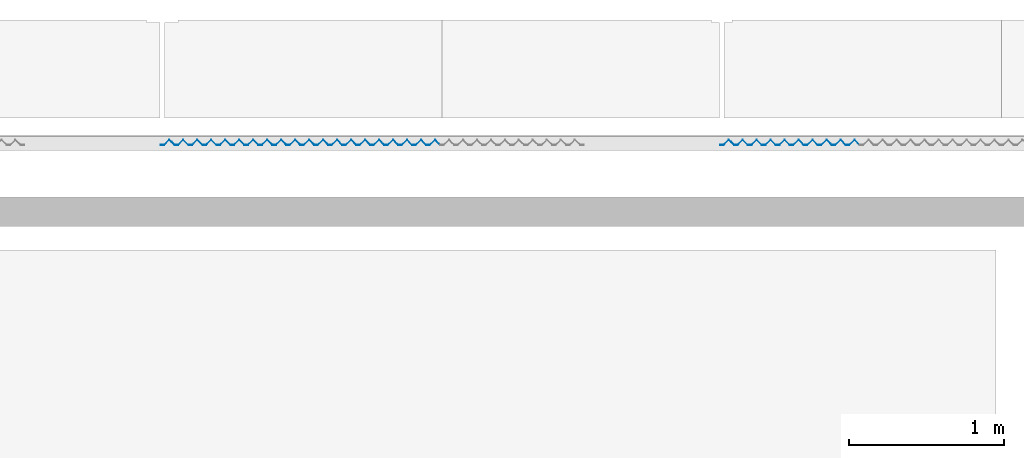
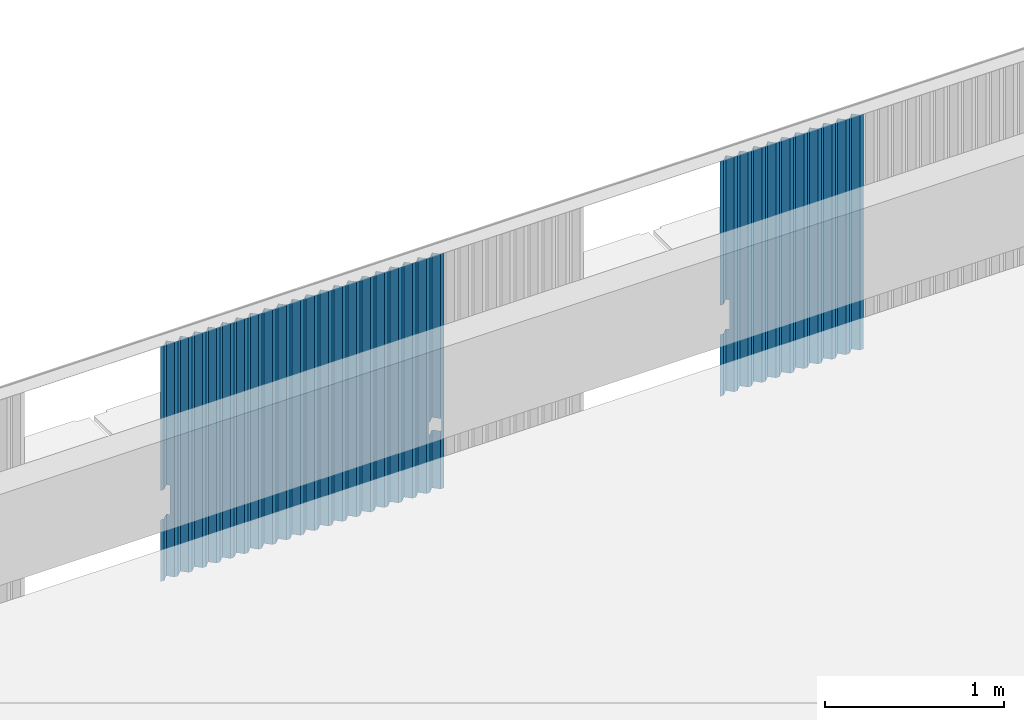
# One storey, part 32 of 37: 3 walls.
"""IFC4X3_ADD2 building model written with IfcOpenShell, lengths in millimetres."""

from ifc_helpers import new_model, si_unit, direction, frame, origin_with_axes, place, context, subcontext, project, spatial, polygons, element, save


model = new_model("IFC4X3_ADD2")

# Units and contexts
model_context = context("Model", 3, precision=1e-05, world=origin_with_axes(), true_north=direction((0.0, 1.0)))
body_context = subcontext(model_context, "Body", "Model", "MODEL_VIEW")
ifc_project = project(units=[si_unit("LENGTHUNIT", "METRE", prefix="MILLI"), si_unit("AREAUNIT", "SQUARE_METRE"), si_unit("VOLUMEUNIT", "CUBIC_METRE"), si_unit("PLANEANGLEUNIT", "RADIAN"), si_unit("TIMEUNIT", "SECOND"), si_unit("MASSUNIT", "GRAM")], contexts=[model_context])

# Site, building, storey
site_placement = place(None, origin_with_axes())
site = spatial("IfcSite", under=ifc_project, at=site_placement, Name="Site", CompositionType="ELEMENT")
building_placement = place(site_placement, origin_with_axes())
building = spatial("IfcBuilding", under=site, at=building_placement, Name="IFC Building Story")
storey_placement = place(building_placement, frame((0.0, 0.0, 14400.0), z_axis=(0.0, 0.0, 1.0), x_axis=(1.0, 0.0, 0.0)))
storey = spatial("IfcBuildingStorey", under=building, at=storey_placement, Name="040", Elevation=14400.0)

# Walls
wall_1_placement = place(storey_placement, frame((0.0, 0.0, -14400.0), z_axis=(0.0, 0.0, 1.0), x_axis=(1.0, 0.0, 0.0)))
element("IfcWall", 1, at=wall_1_placement, inside=storey, Name="BB_07.10_Gevelbekleding_PuntProfiel, 900 mm, console rechts_GMO:900 x 1600 mm", ObjectType="BB_07.10_Gevelbekleding_PuntProfiel, 900 mm, console rechts_GMO:900 x 1600 mm", PredefinedType="NOTDEFINED", context=body_context, shape_type="Tessellation", body=[
    polygons([(-12504.99999999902, 45734.99999999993, 14060.0), (-12504.99999999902, 45733.58578643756, 14060.0), (-12519.99999999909, 45748.58578643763, 14060.0), (-12553.58578643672, 45715.0, 14060.0), (-12576.4142135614, 45715.00000000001, 14060.0), (-12575.99999999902, 45716.0, 14060.0), (-12553.9999999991, 45715.99999999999, 14060.0), (-12519.99999999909, 45750.0, 14060.0), (-12504.99999999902, 45734.99999999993, 13860.0), (-12504.99999999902, 45733.58578643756, 13860.0), (-12519.99999999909, 45750.00000000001, 13860.0), (-12553.9999999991, 45716.0, 13860.0), (-12575.99999999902, 45716.0, 13860.0), (-12576.4142135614, 45715.0, 13860.0), (-12553.58578643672, 45715.0, 13860.0), (-12519.99999999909, 45748.58578643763, 13860.0), (-11743.99999999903, 45716.0, 15040.0), (-11765.99999999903, 45716.0, 15040.0), (-11799.99999999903, 45750.0, 15040.0), (-11833.99999999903, 45716.0, 15040.0), (-11855.99999999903, 45716.0, 15040.0), (-11889.99999999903, 45750.0, 15040.0), (-11923.99999999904, 45716.0, 15040.0), (-11945.99999999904, 45716.0, 15040.0), (-11979.99999999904, 45750.00000000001, 15040.0), (-12013.99999999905, 45716.0, 15040.0), (-12035.99999999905, 45716.0, 15040.0), (-12069.99999999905, 45750.00000000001, 15040.0), (-12103.99999999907, 45716.0, 15040.0), (-12125.99999999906, 45716.0, 15040.0), (-12159.99999999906, 45750.00000000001, 15040.0), (-12193.99999999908, 45716.0, 15040.0), (-12215.99999999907, 45716.0, 15040.0), (-12249.99999999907, 45750.00000000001, 15040.0), (-12283.99999999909, 45716.0, 15040.0), (-12305.99999999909, 45716.0, 15040.0), (-12339.99999999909, 45750.00000000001, 15040.0), (-12373.9999999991, 45716.0, 15040.0), (-12395.99999999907, 45716.0, 15040.0), (-12429.99999999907, 45750.00000000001, 15040.0), (-12463.99999999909, 45716.0, 15040.0), (-12485.99999999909, 45716.0, 15040.0), (-12519.99999999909, 45750.00000000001, 15040.0), (-12553.9999999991, 45716.0, 15040.0), (-12575.99999999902, 45716.0, 15040.0), (-12576.4142135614, 45715.00000000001, 15040.0), (-12553.58578643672, 45715.00000000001, 15040.0), (-12519.99999999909, 45748.58578643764, 15040.0), (-12486.41421356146, 45715.00000000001, 15040.0), (-12463.5857864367, 45715.00000000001, 15040.0), (-12429.99999999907, 45748.58578643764, 15040.0), (-12396.41421356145, 45715.00000000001, 15040.0), (-12373.58578643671, 45715.00000000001, 15040.0), (-12339.99999999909, 45748.58578643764, 15040.0), (-12306.41421356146, 45715.00000000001, 15040.0), (-12283.5857864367, 45715.00000000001, 15040.0), (-12249.99999999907, 45748.58578643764, 15040.0), (-12216.41421356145, 45715.00000000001, 15040.0), (-12193.58578643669, 45715.00000000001, 15040.0), (-12159.99999999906, 45748.58578643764, 15040.0), (-12126.41421356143, 45715.00000000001, 15040.0), (-12103.58578643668, 45715.00000000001, 15040.0), (-12069.99999999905, 45748.58578643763, 15040.0), (-12036.41421356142, 45715.00000000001, 15040.0), (-12013.58578643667, 45715.00000000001, 15040.0), (-11979.99999999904, 45748.58578643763, 15040.0), (-11946.41421356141, 45715.00000000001, 15040.0), (-11923.58578643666, 45715.00000000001, 15040.0), (-11889.99999999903, 45748.58578643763, 15040.0), (-11856.41421356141, 45715.0, 15040.0), (-11833.58578643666, 45715.0, 15040.0), (-11799.99999999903, 45748.58578643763, 15040.0), (-11766.4142135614, 45715.0, 15040.0), (-11743.58578643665, 45715.0, 15040.0), (-11709.99999999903, 45748.58578643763, 15040.0), (-11676.4142135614, 45715.0, 15040.0), (-11653.58578643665, 45715.0, 15040.0), (-11653.99999999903, 45716.0, 15040.0), (-11675.99999999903, 45716.0, 15040.0), (-11709.99999999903, 45750.0, 15040.0), (-11743.99999999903, 45716.0, 13440.0), (-11709.99999999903, 45750.0, 13440.0), (-11675.99999999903, 45716.0, 13440.0), (-11653.99999999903, 45716.0, 13440.0), (-11653.58578643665, 45715.0, 13440.0), (-11676.4142135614, 45715.0, 13440.0), (-11709.99999999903, 45748.58578643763, 13440.0), (-11743.58578643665, 45715.0, 13440.0), (-11766.4142135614, 45715.0, 13440.0), (-11799.99999999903, 45748.58578643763, 13440.0), (-11833.58578643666, 45715.0, 13440.0), (-11856.41421356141, 45715.0, 13440.0), (-11889.99999999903, 45748.58578643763, 13440.0), (-11923.58578643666, 45715.00000000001, 13440.0), (-11946.41421356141, 45715.00000000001, 13440.0), (-11979.99999999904, 45748.58578643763, 13440.0), (-12013.58578643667, 45715.00000000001, 13440.0), (-12036.41421356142, 45715.00000000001, 13440.0), (-12069.99999999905, 45748.58578643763, 13440.0), (-12103.58578643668, 45715.00000000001, 13440.0), (-12126.41421356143, 45715.00000000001, 13440.0), (-12159.99999999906, 45748.58578643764, 13440.0), (-12193.58578643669, 45715.00000000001, 13440.0), (-12216.41421356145, 45715.00000000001, 13440.0), (-12249.99999999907, 45748.58578643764, 13440.0), (-12283.5857864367, 45715.00000000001, 13440.0), (-12306.41421356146, 45715.00000000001, 13440.0), (-12339.99999999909, 45748.58578643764, 13440.0), (-12373.58578643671, 45715.00000000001, 13440.0), (-12396.41421356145, 45715.00000000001, 13440.0), (-12429.99999999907, 45748.58578643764, 13440.0), (-12463.5857864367, 45715.00000000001, 13440.0), (-12486.41421356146, 45715.00000000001, 13440.0), (-12519.99999999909, 45748.58578643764, 13440.0), (-12553.58578643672, 45715.00000000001, 13440.0), (-12576.4142135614, 45715.00000000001, 13440.0), (-12575.99999999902, 45716.0, 13440.0), (-12553.9999999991, 45716.0, 13440.0), (-12519.99999999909, 45750.00000000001, 13440.0), (-12485.99999999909, 45716.0, 13440.0), (-12463.99999999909, 45716.0, 13440.0), (-12429.99999999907, 45750.00000000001, 13440.0), (-12395.99999999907, 45716.0, 13440.0), (-12373.9999999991, 45716.0, 13440.0), (-12339.99999999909, 45750.00000000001, 13440.0), (-12305.99999999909, 45716.0, 13440.0), (-12283.99999999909, 45716.0, 13440.0), (-12249.99999999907, 45750.00000000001, 13440.0), (-12215.99999999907, 45716.0, 13440.0), (-12193.99999999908, 45716.0, 13440.0), (-12159.99999999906, 45750.00000000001, 13440.0), (-12125.99999999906, 45716.0, 13440.0), (-12103.99999999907, 45716.0, 13440.0), (-12069.99999999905, 45750.00000000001, 13440.0), (-12035.99999999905, 45716.0, 13440.0), (-12013.99999999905, 45716.0, 13440.0), (-11979.99999999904, 45750.00000000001, 13440.0), (-11945.99999999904, 45716.0, 13440.0), (-11923.99999999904, 45716.0, 13440.0), (-11889.99999999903, 45750.0, 13440.0), (-11855.99999999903, 45716.0, 13440.0), (-11833.99999999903, 45716.0, 13440.0), (-11799.99999999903, 45750.0, 13440.0), (-11765.99999999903, 45716.0, 13440.0)], [[[7, 8, 3]], [[7, 3, 4]], [[4, 5, 6]], [[4, 6, 7]], [[8, 1, 2]], [[8, 2, 3]], [[2, 1, 9, 10]], [[12, 13, 14]], [[12, 14, 15]], [[16, 10, 9]], [[16, 9, 11]], [[11, 12, 15]], [[11, 15, 16]], [[44, 45, 46]], [[44, 46, 47]], [[48, 49, 42]], [[48, 42, 43]], [[43, 44, 47]], [[43, 47, 48]], [[49, 50, 41]], [[49, 41, 42]], [[51, 52, 39]], [[51, 39, 40]], [[40, 41, 50]], [[40, 50, 51]], [[52, 53, 38]], [[52, 38, 39]], [[54, 55, 36]], [[54, 36, 37]], [[37, 38, 53]], [[37, 53, 54]], [[55, 56, 35]], [[55, 35, 36]], [[57, 58, 33]], [[57, 33, 34]], [[34, 35, 56]], [[34, 56, 57]], [[58, 59, 32]], [[58, 32, 33]], [[60, 61, 30]], [[60, 30, 31]], [[31, 32, 59]], [[31, 59, 60]], [[61, 62, 29]], [[61, 29, 30]], [[63, 64, 27]], [[63, 27, 28]], [[28, 29, 62]], [[28, 62, 63]], [[64, 65, 26]], [[64, 26, 27]], [[66, 67, 24]], [[66, 24, 25]], [[25, 26, 65]], [[25, 65, 66]], [[67, 68, 23]], [[67, 23, 24]], [[69, 70, 21]], [[69, 21, 22]], [[22, 23, 68]], [[22, 68, 69]], [[70, 71, 20]], [[70, 20, 21]], [[72, 73, 18]], [[72, 18, 19]], [[19, 20, 71]], [[19, 71, 72]], [[73, 74, 17]], [[73, 17, 18]], [[79, 80, 75]], [[79, 75, 76]], [[76, 77, 78]], [[76, 78, 79]], [[80, 17, 74]], [[80, 74, 75]], [[83, 84, 85]], [[83, 85, 86]], [[87, 88, 81]], [[87, 81, 82]], [[82, 83, 86]], [[82, 86, 87]], [[118, 119, 114]], [[118, 114, 115]], [[115, 116, 117]], [[115, 117, 118]], [[121, 122, 111]], [[121, 111, 112]], [[112, 113, 120]], [[112, 120, 121]], [[113, 114, 119]], [[113, 119, 120]], [[124, 125, 108]], [[124, 108, 109]], [[109, 110, 123]], [[109, 123, 124]], [[110, 111, 122]], [[110, 122, 123]], [[127, 128, 105]], [[127, 105, 106]], [[106, 107, 126]], [[106, 126, 127]], [[107, 108, 125]], [[107, 125, 126]], [[130, 131, 102]], [[130, 102, 103]], [[103, 104, 129]], [[103, 129, 130]], [[104, 105, 128]], [[104, 128, 129]], [[133, 134, 99]], [[133, 99, 100]], [[100, 101, 132]], [[100, 132, 133]], [[101, 102, 131]], [[101, 131, 132]], [[136, 137, 96]], [[136, 96, 97]], [[97, 98, 135]], [[97, 135, 136]], [[98, 99, 134]], [[98, 134, 135]], [[139, 140, 93]], [[139, 93, 94]], [[94, 95, 138]], [[94, 138, 139]], [[95, 96, 137]], [[95, 137, 138]], [[142, 143, 90]], [[142, 90, 91]], [[91, 92, 141]], [[91, 141, 142]], [[92, 93, 140]], [[92, 140, 141]], [[144, 81, 88]], [[144, 88, 89]], [[89, 90, 143]], [[89, 143, 144]], [[18, 17, 81, 144]], [[19, 18, 144, 143]], [[20, 19, 143, 142]], [[21, 20, 142, 141]], [[22, 21, 141, 140]], [[23, 22, 140, 139]], [[24, 23, 139, 138]], [[25, 24, 138, 137]], [[26, 25, 137, 136]], [[27, 26, 136, 135]], [[28, 27, 135, 134]], [[29, 28, 134, 133]], [[30, 29, 133, 132]], [[31, 30, 132, 131]], [[32, 31, 131, 130]], [[33, 32, 130, 129]], [[34, 33, 129, 128]], [[35, 34, 128, 127]], [[36, 35, 127, 126]], [[37, 36, 126, 125]], [[38, 37, 125, 124]], [[54, 53, 109, 108]], [[55, 54, 108, 107]], [[56, 55, 107, 106]], [[57, 56, 106, 105]], [[58, 57, 105, 104]], [[59, 58, 104, 103]], [[60, 59, 103, 102]], [[61, 60, 102, 101]], [[62, 61, 101, 100]], [[63, 62, 100, 99]], [[64, 63, 99, 98]], [[65, 64, 98, 97]], [[66, 65, 97, 96]], [[67, 66, 96, 95]], [[68, 67, 95, 94]], [[69, 68, 94, 93]], [[70, 69, 93, 92]], [[71, 70, 92, 91]], [[72, 71, 91, 90]], [[73, 72, 90, 89]], [[74, 73, 89, 88]], [[80, 79, 83, 82]], [[17, 80, 82, 81]], [[39, 38, 124, 123]], [[40, 39, 123, 122]], [[41, 40, 122, 121]], [[42, 41, 121, 120]], [[1, 8, 43]], [[1, 43, 42]], [[42, 9, 1]], [[42, 120, 9]], [[120, 119, 11]], [[120, 11, 9]], [[44, 43, 8, 7]], [[45, 44, 7, 6]], [[47, 46, 5, 4]], [[48, 47, 4, 3]], [[10, 16, 114]], [[10, 114, 113]], [[113, 2, 10]], [[2, 113, 49]], [[49, 48, 2]], [[48, 3, 2]], [[50, 49, 113, 112]], [[51, 50, 112, 111]], [[52, 51, 111, 110]], [[53, 52, 110, 109]], [[75, 74, 88, 87]], [[76, 75, 87, 86]], [[46, 45, 6, 5]], [[77, 76, 86, 85]], [[78, 77, 85, 84]], [[79, 78, 84, 83]], [[117, 116, 14, 13]], [[115, 114, 16, 15]], [[116, 115, 15, 14]], [[118, 117, 13, 12]], [[119, 118, 12, 11]]]),
])
wall_2_placement = place(storey_placement, frame((0.0, 0.0, -14400.0), z_axis=(0.0, 0.0, 1.0), x_axis=(1.0, 0.0, 0.0)))
element("IfcWall", 2, at=wall_2_placement, inside=storey, Name="BB_07.10_Gevelbekleding_PuntProfiel, 900 mm, vol_GMO:900 x 1600 mm", ObjectType="BB_07.10_Gevelbekleding_PuntProfiel, 900 mm, vol_GMO:900 x 1600 mm", PredefinedType="NOTDEFINED", context=body_context, shape_type="Tessellation", body=[
    polygons([(-10843.99999999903, 45716.0, 15040.0), (-10865.99999999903, 45716.0, 15040.0), (-10899.99999999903, 45750.0, 15040.0), (-10933.99999999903, 45716.0, 15040.0), (-10955.99999999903, 45716.0, 15040.0), (-10989.99999999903, 45750.0, 15040.0), (-11023.99999999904, 45716.0, 15040.0), (-11045.99999999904, 45716.0, 15040.0), (-11079.99999999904, 45750.0, 15040.0), (-11113.99999999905, 45716.0, 15040.0), (-11135.99999999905, 45716.0, 15040.0), (-11169.99999999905, 45750.0, 15040.0), (-11203.99999999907, 45716.0, 15040.0), (-11225.99999999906, 45716.0, 15040.0), (-11259.99999999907, 45750.0, 15040.0), (-11293.99999999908, 45716.0, 15040.0), (-11315.99999999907, 45716.0, 15040.0), (-11349.99999999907, 45750.0, 15040.0), (-11383.99999999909, 45716.0, 15040.0), (-11405.99999999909, 45716.0, 15040.0), (-11439.99999999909, 45750.0, 15040.0), (-11473.9999999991, 45716.0, 15040.0), (-11495.99999999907, 45716.0, 15040.0), (-11529.99999999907, 45750.0, 15040.0), (-11563.99999999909, 45716.0, 15040.0), (-11585.99999999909, 45716.0, 15040.0), (-11619.99999999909, 45750.0, 15040.0), (-11653.9999999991, 45716.0, 15040.0), (-11675.99999999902, 45716.0, 15040.0), (-11676.4142135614, 45715.00000000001, 15040.0), (-11653.58578643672, 45715.00000000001, 15040.0), (-11619.99999999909, 45748.58578643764, 15040.0), (-11586.41421356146, 45715.00000000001, 15040.0), (-11563.5857864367, 45715.00000000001, 15040.0), (-11529.99999999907, 45748.58578643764, 15040.0), (-11496.41421356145, 45715.00000000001, 15040.0), (-11473.58578643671, 45715.00000000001, 15040.0), (-11439.99999999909, 45748.58578643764, 15040.0), (-11406.41421356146, 45715.00000000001, 15040.0), (-11383.5857864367, 45715.00000000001, 15040.0), (-11349.99999999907, 45748.58578643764, 15040.0), (-11316.41421356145, 45715.00000000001, 15040.0), (-11293.58578643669, 45715.00000000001, 15040.0), (-11259.99999999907, 45748.58578643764, 15040.0), (-11226.41421356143, 45715.00000000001, 15040.0), (-11203.58578643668, 45715.00000000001, 15040.0), (-11169.99999999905, 45748.58578643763, 15040.0), (-11136.41421356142, 45715.00000000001, 15040.0), (-11113.58578643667, 45715.00000000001, 15040.0), (-11079.99999999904, 45748.58578643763, 15040.0), (-11046.41421356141, 45715.00000000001, 15040.0), (-11023.58578643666, 45715.00000000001, 15040.0), (-10989.99999999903, 45748.58578643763, 15040.0), (-10956.41421356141, 45715.0, 15040.0), (-10933.58578643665, 45715.0, 15040.0), (-10899.99999999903, 45748.58578643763, 15040.0), (-10866.4142135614, 45715.0, 15040.0), (-10843.58578643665, 45715.0, 15040.0), (-10809.99999999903, 45748.58578643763, 15040.0), (-10776.4142135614, 45715.0, 15040.0), (-10753.58578643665, 45715.0, 15040.0), (-10753.99999999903, 45716.0, 15040.0), (-10775.99999999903, 45716.0, 15040.0), (-10809.99999999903, 45750.0, 15040.0), (-10843.99999999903, 45716.0, 13440.0), (-10809.99999999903, 45750.0, 13440.0), (-10775.99999999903, 45716.0, 13440.0), (-10753.99999999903, 45716.0, 13440.0), (-10753.58578643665, 45715.0, 13440.0), (-10776.4142135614, 45715.0, 13440.0), (-10809.99999999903, 45748.58578643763, 13440.0), (-10843.58578643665, 45715.0, 13440.0), (-10866.4142135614, 45715.0, 13440.0), (-10899.99999999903, 45748.58578643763, 13440.0), (-10933.58578643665, 45715.0, 13440.0), (-10956.41421356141, 45715.0, 13440.0), (-10989.99999999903, 45748.58578643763, 13440.0), (-11023.58578643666, 45715.00000000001, 13440.0), (-11046.41421356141, 45715.00000000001, 13440.0), (-11079.99999999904, 45748.58578643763, 13440.0), (-11113.58578643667, 45715.00000000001, 13440.0), (-11136.41421356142, 45715.00000000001, 13440.0), (-11169.99999999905, 45748.58578643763, 13440.0), (-11203.58578643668, 45715.00000000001, 13440.0), (-11226.41421356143, 45715.00000000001, 13440.0), (-11259.99999999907, 45748.58578643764, 13440.0), (-11293.58578643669, 45715.00000000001, 13440.0), (-11316.41421356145, 45715.00000000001, 13440.0), (-11349.99999999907, 45748.58578643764, 13440.0), (-11383.5857864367, 45715.00000000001, 13440.0), (-11406.41421356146, 45715.00000000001, 13440.0), (-11439.99999999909, 45748.58578643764, 13440.0), (-11473.58578643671, 45715.00000000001, 13440.0), (-11496.41421356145, 45715.00000000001, 13440.0), (-11529.99999999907, 45748.58578643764, 13440.0), (-11563.5857864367, 45715.00000000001, 13440.0), (-11586.41421356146, 45715.00000000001, 13440.0), (-11619.99999999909, 45748.58578643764, 13440.0), (-11653.58578643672, 45715.00000000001, 13440.0), (-11676.4142135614, 45715.00000000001, 13440.0), (-11675.99999999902, 45716.0, 13440.0), (-11653.9999999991, 45716.0, 13440.0), (-11619.99999999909, 45750.0, 13440.0), (-11585.99999999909, 45716.0, 13440.0), (-11563.99999999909, 45716.0, 13440.0), (-11529.99999999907, 45750.0, 13440.0), (-11495.99999999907, 45716.0, 13440.0), (-11473.9999999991, 45716.0, 13440.0), (-11439.99999999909, 45750.0, 13440.0), (-11405.99999999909, 45716.0, 13440.0), (-11383.99999999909, 45716.0, 13440.0), (-11349.99999999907, 45750.0, 13440.0), (-11315.99999999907, 45716.0, 13440.0), (-11293.99999999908, 45716.0, 13440.0), (-11259.99999999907, 45750.0, 13440.0), (-11225.99999999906, 45716.0, 13440.0), (-11203.99999999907, 45716.0, 13440.0), (-11169.99999999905, 45750.0, 13440.0), (-11135.99999999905, 45716.0, 13440.0), (-11113.99999999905, 45716.0, 13440.0), (-11079.99999999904, 45750.0, 13440.0), (-11045.99999999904, 45716.0, 13440.0), (-11023.99999999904, 45716.0, 13440.0), (-10989.99999999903, 45750.0, 13440.0), (-10955.99999999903, 45716.0, 13440.0), (-10933.99999999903, 45716.0, 13440.0), (-10899.99999999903, 45750.0, 13440.0), (-10865.99999999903, 45716.0, 13440.0), (-10843.99999999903, 45716.0, 13919.66564336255), (-10852.49999999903, 45716.0, 13919.66564336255), (-10852.49999999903, 45716.0, 13834.66564336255), (-10843.99999999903, 45716.0, 13834.66564336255), (-10843.58578643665, 45715.0, 13834.66564336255), (-10852.49999999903, 45715.0, 13834.66564336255), (-10852.49999999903, 45715.0, 13919.66564336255), (-10843.58578643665, 45715.0, 13919.66564336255), (-10775.99999999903, 45716.0, 13919.66564336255), (-10809.99999999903, 45750.0, 13919.66564336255), (-10809.99999999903, 45748.58578643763, 13919.66564336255), (-10776.4142135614, 45715.00000000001, 13919.66564336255), (-10767.49999999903, 45715.0, 13919.66564336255), (-10767.49999999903, 45715.0, 13834.66564336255), (-10776.4142135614, 45715.00000000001, 13834.66564336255), (-10775.99999999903, 45716.0, 13834.66564336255), (-10767.49999999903, 45716.0, 13834.66564336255), (-10767.49999999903, 45716.0, 13919.66564336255), (-10809.99999999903, 45748.58578643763, 13834.66564336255), (-10809.99999999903, 45750.0, 13834.66564336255)], [[[28, 29, 30]], [[28, 30, 31]], [[32, 33, 26]], [[32, 26, 27]], [[27, 28, 31]], [[27, 31, 32]], [[33, 34, 25]], [[33, 25, 26]], [[35, 36, 23]], [[35, 23, 24]], [[24, 25, 34]], [[24, 34, 35]], [[36, 37, 22]], [[36, 22, 23]], [[38, 39, 20]], [[38, 20, 21]], [[21, 22, 37]], [[21, 37, 38]], [[39, 40, 19]], [[39, 19, 20]], [[41, 42, 17]], [[41, 17, 18]], [[18, 19, 40]], [[18, 40, 41]], [[42, 43, 16]], [[42, 16, 17]], [[44, 45, 14]], [[44, 14, 15]], [[15, 16, 43]], [[15, 43, 44]], [[45, 46, 13]], [[45, 13, 14]], [[47, 48, 11]], [[47, 11, 12]], [[12, 13, 46]], [[12, 46, 47]], [[48, 49, 10]], [[48, 10, 11]], [[50, 51, 8]], [[50, 8, 9]], [[9, 10, 49]], [[9, 49, 50]], [[51, 52, 7]], [[51, 7, 8]], [[53, 54, 5]], [[53, 5, 6]], [[6, 7, 52]], [[6, 52, 53]], [[54, 55, 4]], [[54, 4, 5]], [[56, 57, 2]], [[56, 2, 3]], [[3, 4, 55]], [[3, 55, 56]], [[57, 58, 1]], [[57, 1, 2]], [[63, 64, 59]], [[63, 59, 60]], [[60, 61, 62]], [[60, 62, 63]], [[64, 1, 58]], [[64, 58, 59]], [[67, 68, 69]], [[67, 69, 70]], [[71, 72, 65]], [[71, 65, 66]], [[66, 67, 70]], [[66, 70, 71]], [[102, 103, 98]], [[102, 98, 99]], [[99, 100, 101]], [[99, 101, 102]], [[105, 106, 95]], [[105, 95, 96]], [[96, 97, 104]], [[96, 104, 105]], [[97, 98, 103]], [[97, 103, 104]], [[108, 109, 92]], [[108, 92, 93]], [[93, 94, 107]], [[93, 107, 108]], [[94, 95, 106]], [[94, 106, 107]], [[111, 112, 89]], [[111, 89, 90]], [[90, 91, 110]], [[90, 110, 111]], [[91, 92, 109]], [[91, 109, 110]], [[114, 115, 86]], [[114, 86, 87]], [[87, 88, 113]], [[87, 113, 114]], [[88, 89, 112]], [[88, 112, 113]], [[117, 118, 83]], [[117, 83, 84]], [[84, 85, 116]], [[84, 116, 117]], [[85, 86, 115]], [[85, 115, 116]], [[120, 121, 80]], [[120, 80, 81]], [[81, 82, 119]], [[81, 119, 120]], [[82, 83, 118]], [[82, 118, 119]], [[123, 124, 77]], [[123, 77, 78]], [[78, 79, 122]], [[78, 122, 123]], [[79, 80, 121]], [[79, 121, 122]], [[126, 127, 74]], [[126, 74, 75]], [[75, 76, 125]], [[75, 125, 126]], [[76, 77, 124]], [[76, 124, 125]], [[128, 65, 72]], [[128, 72, 73]], [[73, 74, 127]], [[73, 127, 128]], [[131, 132, 65]], [[131, 65, 128]], [[128, 130, 131]], [[130, 128, 2]], [[2, 1, 130]], [[1, 129, 130]], [[3, 2, 128, 127]], [[4, 3, 127, 126]], [[5, 4, 126, 125]], [[6, 5, 125, 124]], [[7, 6, 124, 123]], [[8, 7, 123, 122]], [[9, 8, 122, 121]], [[10, 9, 121, 120]], [[11, 10, 120, 119]], [[12, 11, 119, 118]], [[13, 12, 118, 117]], [[14, 13, 117, 116]], [[15, 14, 116, 115]], [[16, 15, 115, 114]], [[17, 16, 114, 113]], [[18, 17, 113, 112]], [[19, 18, 112, 111]], [[20, 19, 111, 110]], [[21, 20, 110, 109]], [[22, 21, 109, 108]], [[38, 37, 93, 92]], [[39, 38, 92, 91]], [[40, 39, 91, 90]], [[41, 40, 90, 89]], [[42, 41, 89, 88]], [[43, 42, 88, 87]], [[44, 43, 87, 86]], [[45, 44, 86, 85]], [[46, 45, 85, 84]], [[47, 46, 84, 83]], [[48, 47, 83, 82]], [[49, 48, 82, 81]], [[50, 49, 81, 80]], [[51, 50, 80, 79]], [[52, 51, 79, 78]], [[53, 52, 78, 77]], [[54, 53, 77, 76]], [[55, 54, 76, 75]], [[56, 55, 75, 74]], [[57, 56, 74, 73]], [[135, 136, 58]], [[135, 58, 57]], [[57, 134, 135]], [[57, 73, 134]], [[73, 72, 133]], [[73, 133, 134]], [[64, 63, 137, 138]], [[1, 64, 138, 129]], [[23, 22, 108, 107]], [[24, 23, 107, 106]], [[25, 24, 106, 105]], [[26, 25, 105, 104]], [[27, 26, 104, 103]], [[28, 27, 103, 102]], [[29, 28, 102, 101]], [[31, 30, 100, 99]], [[32, 31, 99, 98]], [[33, 32, 98, 97]], [[34, 33, 97, 96]], [[35, 34, 96, 95]], [[36, 35, 95, 94]], [[37, 36, 94, 93]], [[59, 58, 136, 139]], [[60, 59, 139, 140]], [[30, 29, 101, 100]], [[142, 143, 70]], [[142, 70, 69]], [[69, 141, 142]], [[141, 69, 61]], [[61, 60, 141]], [[60, 140, 141]], [[62, 61, 69, 68]], [[146, 137, 63]], [[146, 63, 62]], [[62, 145, 146]], [[62, 68, 145]], [[68, 67, 144]], [[68, 144, 145]], [[134, 131, 130, 135]], [[137, 146, 141]], [[137, 141, 140]], [[139, 136, 129]], [[139, 129, 138]], [[138, 137, 140]], [[138, 140, 139]], [[136, 135, 130]], [[136, 130, 129]], [[141, 146, 145, 142]], [[144, 148, 147]], [[144, 147, 143]], [[143, 142, 145]], [[143, 145, 144]], [[132, 131, 134]], [[132, 134, 133]], [[133, 147, 148]], [[133, 148, 132]], [[71, 70, 143, 147]], [[72, 71, 147, 133]], [[66, 65, 132, 148]], [[67, 66, 148, 144]]]),
])
wall_3_placement = place(storey_placement, frame((0.0, 0.0, -14400.0), z_axis=(0.0, 0.0, 1.0), x_axis=(1.0, 0.0, 0.0)))
element("IfcWall", 3, at=wall_3_placement, inside=storey, Name="BB_07.10_Gevelbekleding_PuntProfiel, 900 mm, console rechts_GMO:900 x 1600 mm", ObjectType="BB_07.10_Gevelbekleding_PuntProfiel, 900 mm, console rechts_GMO:900 x 1600 mm", PredefinedType="NOTDEFINED", context=body_context, shape_type="Tessellation", body=[
    polygons([(-8904.99999999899, 45734.99999999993, 14060.0), (-8904.99999999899, 45733.58578643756, 14060.0), (-8919.99999999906, 45748.58578643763, 14060.0), (-8953.585786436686, 45715.0, 14060.0), (-8976.41421356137, 45715.0, 14060.0), (-8975.999999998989, 45716.0, 14060.0), (-8953.99999999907, 45716.0, 14060.0), (-8919.99999999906, 45750.0, 14060.0), (-8904.99999999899, 45734.99999999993, 13860.0), (-8904.99999999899, 45733.58578643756, 13860.0), (-8919.99999999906, 45750.0, 13860.0), (-8953.99999999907, 45716.0, 13860.0), (-8975.999999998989, 45716.0, 13860.0), (-8976.41421356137, 45715.0, 13860.0), (-8953.585786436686, 45715.0, 13860.0), (-8919.99999999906, 45748.58578643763, 13860.0), (-8143.999999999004, 45716.0, 15040.0), (-8165.999999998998, 45716.0, 15040.0), (-8199.999999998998, 45750.0, 15040.0), (-8233.999999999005, 45716.0, 15040.0), (-8255.999999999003, 45716.0, 15040.0), (-8289.999999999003, 45750.0, 15040.0), (-8323.999999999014, 45716.0, 15040.0), (-8345.999999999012, 45716.0, 15040.0), (-8379.999999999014, 45750.00000000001, 15040.0), (-8413.999999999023, 45716.0, 15040.0), (-8435.999999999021, 45716.0, 15040.0), (-8469.999999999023, 45750.00000000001, 15040.0), (-8503.999999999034, 45716.0, 15040.0), (-8525.999999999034, 45716.0, 15040.0), (-8559.999999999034, 45750.00000000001, 15040.0), (-8593.999999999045, 45716.0, 15040.0), (-8615.999999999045, 45716.0, 15040.0), (-8649.999999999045, 45750.00000000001, 15040.0), (-8683.999999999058, 45716.0, 15040.0), (-8705.999999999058, 45716.0, 15040.0), (-8739.999999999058, 45750.00000000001, 15040.0), (-8773.999999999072, 45716.0, 15040.0), (-8795.999999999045, 45716.0, 15040.0), (-8829.999999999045, 45750.00000000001, 15040.0), (-8863.99999999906, 45716.0, 15040.0), (-8885.999999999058, 45716.0, 15040.0), (-8919.999999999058, 45750.00000000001, 15040.0), (-8953.99999999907, 45716.0, 15040.0), (-8975.999999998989, 45716.0, 15040.0), (-8976.41421356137, 45715.0, 15040.0), (-8953.585786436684, 45715.0, 15040.0), (-8919.999999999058, 45748.58578643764, 15040.0), (-8886.414213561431, 45715.0, 15040.0), (-8863.585786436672, 45715.0, 15040.0), (-8829.999999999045, 45748.58578643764, 15040.0), (-8796.414213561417, 45715.0, 15040.0), (-8773.585786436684, 45715.0, 15040.0), (-8739.999999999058, 45748.58578643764, 15040.0), (-8706.414213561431, 45715.0, 15040.0), (-8683.585786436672, 45715.0, 15040.0), (-8649.999999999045, 45748.58578643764, 15040.0), (-8616.414213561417, 45715.0, 15040.0), (-8593.585786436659, 45715.0, 15040.0), (-8559.999999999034, 45748.58578643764, 15040.0), (-8526.414213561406, 45715.0, 15040.0), (-8503.58578643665, 45715.0, 15040.0), (-8469.999999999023, 45748.58578643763, 15040.0), (-8436.414213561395, 45715.0, 15040.0), (-8413.585786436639, 45715.0, 15040.0), (-8379.99999999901, 45748.58578643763, 15040.0), (-8346.414213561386, 45715.0, 15040.0), (-8323.585786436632, 45715.0, 15040.0), (-8289.999999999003, 45748.58578643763, 15040.0), (-8256.414213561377, 45715.0, 15040.0), (-8233.585786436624, 45715.0, 15040.0), (-8199.999999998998, 45748.58578643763, 15040.0), (-8166.414213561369, 45715.0, 15040.0), (-8143.585786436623, 45715.0, 15040.0), (-8109.999999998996, 45748.58578643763, 15040.0), (-8076.414213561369, 45715.0, 15040.0), (-8053.585786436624, 45715.0, 15040.0), (-8053.999999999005, 45716.0, 15040.0), (-8075.999999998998, 45716.0, 15040.0), (-8109.999999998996, 45750.0, 15040.0), (-8143.999999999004, 45716.0, 13440.0), (-8109.999999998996, 45750.0, 13440.0), (-8075.999999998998, 45716.0, 13440.0), (-8053.999999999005, 45716.0, 13440.0), (-8053.585786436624, 45715.0, 13440.0), (-8076.414213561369, 45715.0, 13440.0), (-8109.999999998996, 45748.58578643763, 13440.0), (-8143.585786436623, 45715.0, 13440.0), (-8166.414213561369, 45715.0, 13440.0), (-8199.999999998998, 45748.58578643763, 13440.0), (-8233.585786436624, 45715.0, 13440.0), (-8256.414213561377, 45715.0, 13440.0), (-8289.999999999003, 45748.58578643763, 13440.0), (-8323.585786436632, 45715.0, 13440.0), (-8346.414213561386, 45715.0, 13440.0), (-8379.99999999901, 45748.58578643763, 13440.0), (-8413.585786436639, 45715.0, 13440.0), (-8436.414213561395, 45715.0, 13440.0), (-8469.999999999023, 45748.58578643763, 13440.0), (-8503.58578643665, 45715.0, 13440.0), (-8526.414213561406, 45715.0, 13440.0), (-8559.999999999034, 45748.58578643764, 13440.0), (-8593.585786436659, 45715.0, 13440.0), (-8616.414213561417, 45715.0, 13440.0), (-8649.999999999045, 45748.58578643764, 13440.0), (-8683.585786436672, 45715.0, 13440.0), (-8706.414213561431, 45715.0, 13440.0), (-8739.999999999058, 45748.58578643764, 13440.0), (-8773.585786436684, 45715.0, 13440.0), (-8796.414213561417, 45715.0, 13440.0), (-8829.999999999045, 45748.58578643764, 13440.0), (-8863.585786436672, 45715.0, 13440.0), (-8886.414213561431, 45715.0, 13440.0), (-8919.999999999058, 45748.58578643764, 13440.0), (-8953.585786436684, 45715.0, 13440.0), (-8976.41421356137, 45715.0, 13440.0), (-8975.999999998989, 45716.0, 13440.0), (-8953.99999999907, 45716.0, 13440.0), (-8919.999999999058, 45750.00000000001, 13440.0), (-8885.999999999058, 45716.0, 13440.0), (-8863.99999999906, 45716.0, 13440.0), (-8829.999999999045, 45750.00000000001, 13440.0), (-8795.999999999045, 45716.0, 13440.0), (-8773.999999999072, 45716.0, 13440.0), (-8739.999999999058, 45750.00000000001, 13440.0), (-8705.999999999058, 45716.0, 13440.0), (-8683.999999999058, 45716.0, 13440.0), (-8649.999999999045, 45750.00000000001, 13440.0), (-8615.999999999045, 45716.0, 13440.0), (-8593.999999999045, 45716.0, 13440.0), (-8559.999999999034, 45750.00000000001, 13440.0), (-8525.999999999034, 45716.0, 13440.0), (-8503.999999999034, 45716.0, 13440.0), (-8469.999999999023, 45750.00000000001, 13440.0), (-8435.999999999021, 45716.0, 13440.0), (-8413.999999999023, 45716.0, 13440.0), (-8379.999999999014, 45750.00000000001, 13440.0), (-8345.999999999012, 45716.0, 13440.0), (-8323.999999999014, 45716.0, 13440.0), (-8289.999999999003, 45750.0, 13440.0), (-8255.999999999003, 45716.0, 13440.0), (-8233.999999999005, 45716.0, 13440.0), (-8199.999999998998, 45750.0, 13440.0), (-8165.999999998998, 45716.0, 13440.0)], [[[7, 8, 3]], [[7, 3, 4]], [[4, 5, 6]], [[4, 6, 7]], [[8, 1, 2]], [[8, 2, 3]], [[2, 1, 9, 10]], [[12, 13, 14]], [[12, 14, 15]], [[16, 10, 9]], [[16, 9, 11]], [[11, 12, 15]], [[11, 15, 16]], [[44, 45, 46]], [[44, 46, 47]], [[48, 49, 42]], [[48, 42, 43]], [[43, 44, 47]], [[43, 47, 48]], [[49, 50, 41]], [[49, 41, 42]], [[51, 52, 39]], [[51, 39, 40]], [[40, 41, 50]], [[40, 50, 51]], [[52, 53, 38]], [[52, 38, 39]], [[54, 55, 36]], [[54, 36, 37]], [[37, 38, 53]], [[37, 53, 54]], [[55, 56, 35]], [[55, 35, 36]], [[57, 58, 33]], [[57, 33, 34]], [[34, 35, 56]], [[34, 56, 57]], [[58, 59, 32]], [[58, 32, 33]], [[60, 61, 30]], [[60, 30, 31]], [[31, 32, 59]], [[31, 59, 60]], [[61, 62, 29]], [[61, 29, 30]], [[63, 64, 27]], [[63, 27, 28]], [[28, 29, 62]], [[28, 62, 63]], [[64, 65, 26]], [[64, 26, 27]], [[66, 67, 24]], [[66, 24, 25]], [[25, 26, 65]], [[25, 65, 66]], [[67, 68, 23]], [[67, 23, 24]], [[69, 70, 21]], [[69, 21, 22]], [[22, 23, 68]], [[22, 68, 69]], [[70, 71, 20]], [[70, 20, 21]], [[72, 73, 18]], [[72, 18, 19]], [[19, 20, 71]], [[19, 71, 72]], [[73, 74, 17]], [[73, 17, 18]], [[79, 80, 75]], [[79, 75, 76]], [[76, 77, 78]], [[76, 78, 79]], [[80, 17, 74]], [[80, 74, 75]], [[83, 84, 85]], [[83, 85, 86]], [[87, 88, 81]], [[87, 81, 82]], [[82, 83, 86]], [[82, 86, 87]], [[118, 119, 114]], [[118, 114, 115]], [[115, 116, 117]], [[115, 117, 118]], [[121, 122, 111]], [[121, 111, 112]], [[112, 113, 120]], [[112, 120, 121]], [[113, 114, 119]], [[113, 119, 120]], [[124, 125, 108]], [[124, 108, 109]], [[109, 110, 123]], [[109, 123, 124]], [[110, 111, 122]], [[110, 122, 123]], [[127, 128, 105]], [[127, 105, 106]], [[106, 107, 126]], [[106, 126, 127]], [[107, 108, 125]], [[107, 125, 126]], [[130, 131, 102]], [[130, 102, 103]], [[103, 104, 129]], [[103, 129, 130]], [[104, 105, 128]], [[104, 128, 129]], [[133, 134, 99]], [[133, 99, 100]], [[100, 101, 132]], [[100, 132, 133]], [[101, 102, 131]], [[101, 131, 132]], [[136, 137, 96]], [[136, 96, 97]], [[97, 98, 135]], [[97, 135, 136]], [[98, 99, 134]], [[98, 134, 135]], [[139, 140, 93]], [[139, 93, 94]], [[94, 95, 138]], [[94, 138, 139]], [[95, 96, 137]], [[95, 137, 138]], [[142, 143, 90]], [[142, 90, 91]], [[91, 92, 141]], [[91, 141, 142]], [[92, 93, 140]], [[92, 140, 141]], [[144, 81, 88]], [[144, 88, 89]], [[89, 90, 143]], [[89, 143, 144]], [[18, 17, 81, 144]], [[19, 18, 144, 143]], [[20, 19, 143, 142]], [[21, 20, 142, 141]], [[22, 21, 141, 140]], [[23, 22, 140, 139]], [[24, 23, 139, 138]], [[25, 24, 138, 137]], [[26, 25, 137, 136]], [[27, 26, 136, 135]], [[28, 27, 135, 134]], [[29, 28, 134, 133]], [[30, 29, 133, 132]], [[31, 30, 132, 131]], [[32, 31, 131, 130]], [[33, 32, 130, 129]], [[34, 33, 129, 128]], [[35, 34, 128, 127]], [[36, 35, 127, 126]], [[37, 36, 126, 125]], [[38, 37, 125, 124]], [[54, 53, 109, 108]], [[55, 54, 108, 107]], [[56, 55, 107, 106]], [[57, 56, 106, 105]], [[58, 57, 105, 104]], [[59, 58, 104, 103]], [[60, 59, 103, 102]], [[61, 60, 102, 101]], [[62, 61, 101, 100]], [[63, 62, 100, 99]], [[64, 63, 99, 98]], [[65, 64, 98, 97]], [[66, 65, 97, 96]], [[67, 66, 96, 95]], [[68, 67, 95, 94]], [[69, 68, 94, 93]], [[70, 69, 93, 92]], [[71, 70, 92, 91]], [[72, 71, 91, 90]], [[73, 72, 90, 89]], [[74, 73, 89, 88]], [[80, 79, 83, 82]], [[17, 80, 82, 81]], [[39, 38, 124, 123]], [[40, 39, 123, 122]], [[41, 40, 122, 121]], [[42, 41, 121, 120]], [[1, 8, 43]], [[1, 43, 42]], [[42, 9, 1]], [[42, 120, 9]], [[120, 119, 11]], [[120, 11, 9]], [[44, 43, 8, 7]], [[45, 44, 7, 6]], [[47, 46, 5, 4]], [[48, 47, 4, 3]], [[10, 16, 114]], [[10, 114, 113]], [[113, 2, 10]], [[2, 113, 49]], [[49, 48, 2]], [[48, 3, 2]], [[50, 49, 113, 112]], [[51, 50, 112, 111]], [[52, 51, 111, 110]], [[53, 52, 110, 109]], [[75, 74, 88, 87]], [[76, 75, 87, 86]], [[46, 45, 6, 5]], [[77, 76, 86, 85]], [[78, 77, 85, 84]], [[79, 78, 84, 83]], [[117, 116, 14, 13]], [[115, 114, 16, 15]], [[116, 115, 15, 14]], [[118, 117, 13, 12]], [[119, 118, 12, 11]]]),
])

save(model, "model.ifc")
